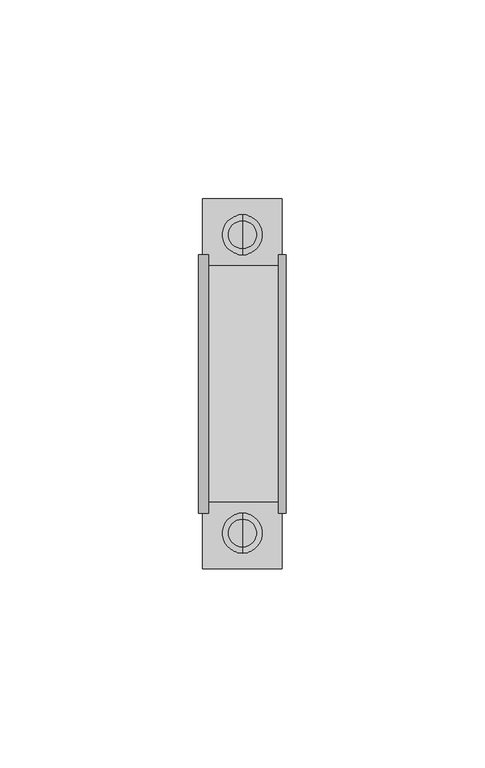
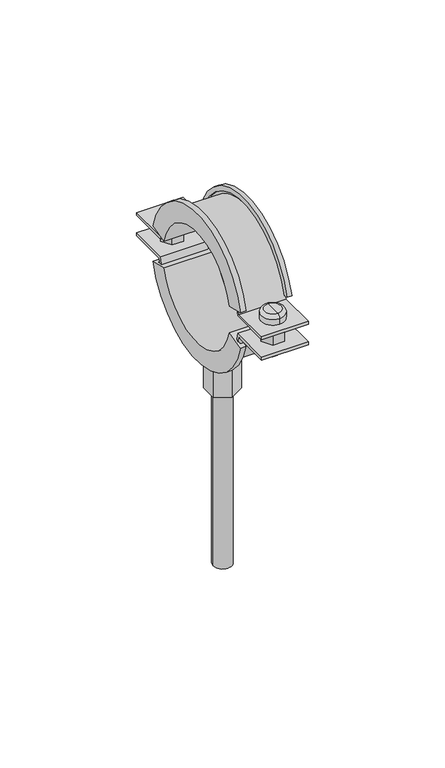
"""IFC4 building model written with IfcOpenShell, lengths in millimetres: pipe fitting geometry, NIRON abrazadera isofonica lisa : Estándard."""

from ifc_helpers import new_model, si_unit, point, frame, origin, origin_2d, place, context, project, spatial, polyline, circle_curve, ellipse_curve, trimmed, segment, composite_curve, outline, extrude, source, transform, mapped, element, save
from ifc_brep_helpers import plane_surface, cylinder_surface, revolved_surface, advanced_brep


def pipe_fitting_6546f404(model_context):
    return source(origin(), model_context, "Body", "SolidModel", [
        advanced_brep(
        [(0.0, 33.5, -7.8), (0.0, 33.5, -4.8), (0.0, 41.5, -4.8), (0.0, 41.5, -7.8), (0.0, 37.5, -7.8), (0.0, 37.5, -4.8)],
        [
            (0, 1),
            (1, 2, circle_curve(frame((0.0, 37.5, -4.8), z_axis=(0.0, 0.0, -1.0), x_axis=(0.0, 1.0, 0.0)), 4.0)),
            (2, 3),
            (3, 0, circle_curve(frame((0.0, 37.5, -7.8), z_axis=(0.0, 0.0, 1.0), x_axis=(0.0, 1.0, 0.0)), 4.0)),
            (2, 1, circle_curve(frame((0.0, 37.5, -4.8), z_axis=(0.0, 0.0, -1.0), x_axis=(0.0, 1.0, 0.0)), 4.0)),
            (0, 3, circle_curve(frame((0.0, 37.5, -7.8), z_axis=(0.0, 0.0, 1.0), x_axis=(0.0, 1.0, 0.0)), 4.0)),
            (4, 0),
            (3, 4),
            (1, 5),
            (5, 2),
        ],
        [
            cylinder_surface(frame((0.0, 37.5, -110.5332781), z_axis=(0.0, 0.0, -1.0), x_axis=(0.0, 1.0, 0.0)), 4.0),
            plane_surface(frame((0.0, 37.5, -7.8), z_axis=(0.0, 0.0, -1.0), x_axis=(0.0, 1.0, 0.0))),
            plane_surface(frame((0.0, 37.5, -4.8), z_axis=(0.0, 0.0, 1.0), x_axis=(0.0, 1.0, 0.0))),
        ],
        [
            (0, [[1, 2, 3, 4]]),
            (0, [[-3, 5, -1, 6]]),
            (1, [[7, -4, 8]]),
            (1, [[-8, -6, -7]]),
            (2, [[9, 10, -2]]),
            (2, [[-10, -9, -5]]),
        ],
    ),
        advanced_brep(
        [(0.0, 37.5, 4.8), (0.0, 32.5, 4.8), (0.0, 42.5, 4.8), (0.0, 32.5, 7.3), (0.0, 42.5, 7.3), (0.0, 34.0, 8.8), (0.0, 37.5, 8.8), (0.0, 41.0, 8.8)],
        [
            (0, 1),
            (1, 2, circle_curve(frame((0.0, 37.5, 4.8), z_axis=(0.0, 0.0, -1.0), x_axis=(0.0, 1.0, 0.0)), 5.0)),
            (2, 0),
            (2, 1, circle_curve(frame((0.0, 37.5, 4.8), z_axis=(0.0, 0.0, -1.0), x_axis=(0.0, 1.0, 0.0)), 5.0)),
            (1, 3),
            (3, 4, circle_curve(frame((0.0, 37.5, 7.3), z_axis=(0.0, 0.0, -1.0), x_axis=(0.0, 1.0, 0.0)), 5.0)),
            (4, 2),
            (4, 3, circle_curve(frame((0.0, 37.5, 7.3), z_axis=(0.0, 0.0, -1.0), x_axis=(0.0, 1.0, 0.0)), 5.0)),
            (5, 6),
            (6, 7),
            (7, 5, circle_curve(frame((0.0, 37.5, 8.8), z_axis=(0.0, 0.0, 1.0), x_axis=(0.0, 1.0, 0.0)), 3.5)),
            (5, 7, circle_curve(frame((0.0, 37.5, 8.8), z_axis=(0.0, 0.0, 1.0), x_axis=(0.0, 1.0, 0.0)), 3.5)),
            (3, 5, circle_curve(frame((0.0, 34.0, 7.3), z_axis=(-1.0, 0.0, 0.0), x_axis=(0.0, 1.0, 0.0)), 1.5)),
            (7, 4, circle_curve(frame((0.0, 41.0, 7.3), z_axis=(-1.0, 0.0, 0.0), x_axis=(0.0, -1.0, 0.0)), 1.5)),
        ],
        [
            plane_surface(frame((0.0, 37.5, 4.8), z_axis=(0.0, 0.0, -1.0), x_axis=(0.0, 1.0, 0.0))),
            cylinder_surface(frame((0.0, 37.5, 9.8), z_axis=(0.0, 0.0, -1.0), x_axis=(0.0, 1.0, 0.0)), 5.0),
            plane_surface(frame((0.0, 37.5, 8.8), z_axis=(0.0, 0.0, 1.0), x_axis=(0.0, 1.0, 0.0))),
            revolved_surface(trimmed(ellipse_curve(frame((0.0, 41.0, 7.3), z_axis=(-1.0, 0.0, 0.0), x_axis=(0.0, -1.0, 0.0)), 1.5, 1.5), [point((0.0, 41.0, 8.8))], [point((0.0, 42.5, 7.3))], True, "CARTESIAN"), (0.0, 37.5, 9.8), (0.0, 0.0, -1.0)),
        ],
        [
            (0, [[1, 2, 3]]),
            (0, [[-3, 4, -1]]),
            (1, [[5, 6, 7, -2]]),
            (1, [[-7, 8, -5, -4]]),
            (2, [[9, 10, 11]]),
            (2, [[-10, -9, 12]]),
            (3, [[13, -11, 14, -6]]),
            (3, [[-14, -12, -13, -8]]),
        ],
    ),
        advanced_brep(
        [(0.0, -33.5, -7.4875), (0.0, -41.5, -7.4875), (0.0, -41.5, -4.4875), (0.0, -33.5, -4.4875), (0.0, -37.5, -7.4875), (0.0, -37.5, -4.4875)],
        [
            (0, 1, circle_curve(frame((0.0, -37.5, -7.4875), z_axis=(0.0, 0.0, 1.0), x_axis=(0.0, -1.0, 0.0)), 4.0)),
            (1, 2),
            (2, 3, circle_curve(frame((0.0, -37.5, -4.4875), z_axis=(0.0, 0.0, -1.0), x_axis=(0.0, -1.0, 0.0)), 4.0)),
            (3, 0),
            (1, 0, circle_curve(frame((0.0, -37.5, -7.4875), z_axis=(0.0, 0.0, 1.0), x_axis=(0.0, -1.0, 0.0)), 4.0)),
            (3, 2, circle_curve(frame((0.0, -37.5, -4.4875), z_axis=(0.0, 0.0, -1.0), x_axis=(0.0, -1.0, 0.0)), 4.0)),
            (4, 1),
            (0, 4),
            (2, 5),
            (5, 3),
        ],
        [
            cylinder_surface(frame((0.0, -37.5, -110.2207781), z_axis=(0.0, 0.0, -1.0), x_axis=(0.0, -1.0, 0.0)), 4.0),
            plane_surface(frame((0.0, -37.5, -7.4875), z_axis=(0.0, 0.0, -1.0), x_axis=(0.0, -1.0, 0.0))),
            plane_surface(frame((0.0, -37.5, -4.4875), z_axis=(0.0, 0.0, 1.0), x_axis=(0.0, -1.0, 0.0))),
        ],
        [
            (0, [[1, 2, 3, 4]]),
            (0, [[5, -4, 6, -2]]),
            (1, [[7, -1, 8]]),
            (1, [[-8, -5, -7]]),
            (2, [[-3, 9, 10]]),
            (2, [[-6, -10, -9]]),
        ],
    ),
        advanced_brep(
        [(0.0, -37.5, 5.1125), (0.0, -42.5, 5.1125), (0.0, -32.5, 5.1125), (0.0, -42.5, 7.6125), (0.0, -32.5, 7.6125), (0.0, -34.0, 9.1125), (0.0, -41.0, 9.1125), (0.0, -37.5, 9.1125)],
        [
            (0, 1),
            (1, 2, circle_curve(frame((0.0, -37.5, 5.1125), z_axis=(0.0, 0.0, -1.0), x_axis=(0.0, -1.0, 0.0)), 5.0)),
            (2, 0),
            (2, 1, circle_curve(frame((0.0, -37.5, 5.1125), z_axis=(0.0, 0.0, -1.0), x_axis=(0.0, -1.0, 0.0)), 5.0)),
            (1, 3),
            (3, 4, circle_curve(frame((0.0, -37.5, 7.6125), z_axis=(0.0, 0.0, -1.0), x_axis=(0.0, -1.0, 0.0)), 5.0)),
            (4, 2),
            (4, 3, circle_curve(frame((0.0, -37.5, 7.6125), z_axis=(0.0, 0.0, -1.0), x_axis=(0.0, -1.0, 0.0)), 5.0)),
            (5, 6, circle_curve(frame((0.0, -37.5, 9.1125), z_axis=(0.0, 0.0, 1.0), x_axis=(0.0, -1.0, 0.0)), 3.5)),
            (6, 7),
            (7, 5),
            (6, 5, circle_curve(frame((0.0, -37.5, 9.1125), z_axis=(0.0, 0.0, 1.0), x_axis=(0.0, -1.0, 0.0)), 3.5)),
            (3, 6, circle_curve(frame((0.0, -41.0, 7.6125), z_axis=(-1.0, 0.0, 0.0), x_axis=(0.0, 1.0, 0.0)), 1.5)),
            (5, 4, circle_curve(frame((0.0, -34.0, 7.6125), z_axis=(-1.0, 0.0, 0.0), x_axis=(0.0, -1.0, 0.0)), 1.5)),
        ],
        [
            plane_surface(frame((0.0, -37.5, 5.1125), z_axis=(0.0, 0.0, -1.0), x_axis=(0.0, -1.0, 0.0))),
            cylinder_surface(frame((0.0, -37.5, 10.1125), z_axis=(0.0, 0.0, -1.0), x_axis=(0.0, -1.0, 0.0)), 5.0),
            plane_surface(frame((0.0, -37.5, 9.1125), z_axis=(0.0, 0.0, 1.0), x_axis=(0.0, -1.0, 0.0))),
            revolved_surface(trimmed(ellipse_curve(frame((0.0, -41.0, 7.6125), z_axis=(1.0, 0.0, 0.0), x_axis=(0.0, 1.0, 0.0)), 1.5, 1.5), [point((0.0, -41.0, 9.1125))], [point((0.0, -42.5, 7.6125))], True, "CARTESIAN"), (0.0, -37.5, 10.1125), (0.0, 0.0, -1.0)),
        ],
        [
            (0, [[1, 2, 3]]),
            (0, [[-3, 4, -1]]),
            (1, [[-2, 5, 6, 7]]),
            (1, [[-4, -7, 8, -5]]),
            (2, [[9, 10, 11]]),
            (2, [[12, -11, -10]]),
            (3, [[-6, 13, -9, 14]]),
            (3, [[-8, -14, -12, -13]]),
        ],
    ),
        extrude(outline(polyline([(2.5, 33.169873), (-2.5, 33.169873), (-5.0, 37.5), (-2.5, 41.830127), (2.5, 41.830127), (5.0, 37.5), (2.5, 33.169873)])), frame((0.0, 0.0, -4.0), z_axis=(0.0, 0.0, 1.0), x_axis=(1.0, 0.0, 0.0)), (0.0, 0.0, 1.0), 8.0),
        extrude(outline(polyline([(2.5, -33.169873), (5.0, -37.5), (2.5, -41.830127), (-2.5, -41.830127), (-5.0, -37.5), (-2.5, -33.169873), (2.5, -33.169873)])), frame((0.0, 0.0, -4.0), z_axis=(0.0, 0.0, 1.0), x_axis=(1.0, 0.0, 0.0)), (0.0, 0.0, 1.0), 8.0),
        advanced_brep(
        [(11.0, -24.2808852, 6.0), (11.0, -32.4878244, 8.0121254), (9.0, -32.4878244, 8.0121254), (9.0, -30.5453536, 7.5358827), (10.0, -30.5453536, 7.5358827), (10.0, -28.6028828, 7.05964), (-10.0, -28.6028828, 7.05964), (-10.0, -30.5453536, 7.5358827), (-8.5466338, -30.5453536, 7.5358827), (-8.5466338, -32.4878244, 8.0121254), (-11.0, -32.4878244, 8.0121254), (-11.0, -24.2808852, 6.0), (11.0, 24.2808852, 6.0), (-11.0, 24.2808852, 6.0), (-11.0, 32.4878244, 8.0121254), (-8.5466338, 32.4878244, 8.0121254), (-8.5466338, 30.5453536, 7.5358827), (-10.0, 30.5453536, 7.5358827), (-10.0, 28.6028828, 7.05964), (10.0, 28.6028828, 7.05964), (10.0, 30.5453536, 7.5358827), (9.0, 30.5453536, 7.5358827), (9.0, 32.4878244, 8.0121254), (11.0, 32.4878244, 8.0121254)],
        [
            (0, 1),
            (1, 2),
            (2, 3),
            (3, 4),
            (4, 5),
            (5, 6),
            (6, 7),
            (7, 8),
            (8, 9),
            (9, 10),
            (10, 11),
            (11, 0),
            (12, 13),
            (13, 14),
            (14, 15),
            (15, 16),
            (16, 17),
            (17, 18),
            (18, 19),
            (19, 20),
            (20, 21),
            (21, 22),
            (22, 23),
            (23, 12),
            (12, 0, circle_curve(frame((11.0, 0.0, 0.0469661), z_axis=(1.0, 0.0, 0.0), x_axis=(0.0, -0.9712354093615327, 0.23812135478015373)), 25.0)),
            (11, 13, circle_curve(frame((-11.0, 0.0, 0.0469661), z_axis=(-1.0, 0.0, 0.0), x_axis=(0.0, -0.9712354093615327, 0.23812135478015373)), 25.0)),
            (10, 14, circle_curve(frame((-11.0, 0.0, 0.0469661), z_axis=(-1.0, 0.0, 0.0), x_axis=(0.0, -0.9712354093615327, 0.23812135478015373)), 33.45)),
            (9, 15, circle_curve(frame((-8.5466338, 0.0, 0.0469661), z_axis=(-1.0, 0.0, 0.0), x_axis=(0.0, -0.9712354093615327, 0.23812135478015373)), 33.45)),
            (8, 16, circle_curve(frame((-8.5466338, 0.0, 0.0469661), z_axis=(-1.0, 0.0, 0.0), x_axis=(0.0, -0.9712354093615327, 0.23812135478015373)), 31.45)),
            (7, 17, circle_curve(frame((-10.0, 0.0, 0.0469661), z_axis=(-1.0, 0.0, 0.0), x_axis=(0.0, -0.9712354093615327, 0.23812135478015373)), 31.45)),
            (6, 18, circle_curve(frame((-10.0, 0.0, 0.0469661), z_axis=(-1.0, 0.0, 0.0), x_axis=(0.0, -0.9712354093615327, 0.23812135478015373)), 29.45)),
            (5, 19, circle_curve(frame((10.0, 0.0, 0.0469661), z_axis=(-1.0, 0.0, 0.0), x_axis=(0.0, -0.9712354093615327, 0.23812135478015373)), 29.45)),
            (4, 20, circle_curve(frame((10.0, 0.0, 0.0469661), z_axis=(-1.0, 0.0, 0.0), x_axis=(0.0, -0.9712354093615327, 0.23812135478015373)), 31.45)),
            (3, 21, circle_curve(frame((9.0, 0.0, 0.0469661), z_axis=(-1.0, 0.0, 0.0), x_axis=(0.0, -0.9712354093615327, 0.23812135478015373)), 31.45)),
            (2, 22, circle_curve(frame((9.0, 0.0, 0.0469661), z_axis=(-1.0, 0.0, 0.0), x_axis=(0.0, -0.9712354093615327, 0.23812135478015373)), 33.45)),
            (1, 23, circle_curve(frame((11.0, 0.0, 0.0469661), z_axis=(-1.0, 0.0, 0.0), x_axis=(0.0, -0.9712354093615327, 0.23812135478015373)), 33.45)),
        ],
        [
            plane_surface(frame((0.0, -24.2808852, 6.0), z_axis=(0.0, -0.23812135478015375, -0.9712354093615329), x_axis=(1.0, 0.0, 0.0))),
            plane_surface(frame((0.0, 24.2808852, 6.0), z_axis=(0.0, 0.23812135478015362, -0.9712354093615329), x_axis=(1.0, 0.0, 0.0))),
            revolved_surface(polyline([(-11.0, -24.28088523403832, 5.999999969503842), (11.0, -24.28088523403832, 5.999999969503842)]), (0.0, 0.0, 0.0469661), (-1.0, 0.0, 0.0)),
            plane_surface(frame((-11.0, 0.0, 0.0469661), z_axis=(-1.0000000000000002, 0.0, 0.0), x_axis=(0.0, -0.9712354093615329, 0.23812135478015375))),
            cylinder_surface(frame((0.0, 0.0, 0.0469661), z_axis=(-1.0, 0.0, 0.0), x_axis=(0.0, -0.9712354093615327, 0.23812135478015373)), 33.45),
            plane_surface(frame((-8.5466338, 0.0, 0.0469661), z_axis=(1.0000000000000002, 0.0, 0.0), x_axis=(0.0, -0.9712354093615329, 0.23812135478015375))),
            revolved_surface(polyline([(-10.0, -30.545353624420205, 7.535882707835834), (-8.5466338, -30.545353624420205, 7.535882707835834)]), (0.0, 0.0, 0.0469661), (-1.0, 0.0, 0.0)),
            plane_surface(frame((-10.0, 0.0, 0.0469661), z_axis=(1.0000000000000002, 0.0, 0.0), x_axis=(0.0, -0.9712354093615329, 0.23812135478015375))),
            cylinder_surface(frame((0.0, 0.0, 0.0469661), z_axis=(-1.0, 0.0, 0.0), x_axis=(0.0, -0.9712354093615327, 0.23812135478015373)), 29.45),
            plane_surface(frame((10.0, 0.0, 0.0469661), z_axis=(-1.0000000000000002, 0.0, 0.0), x_axis=(0.0, -0.9712354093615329, 0.23812135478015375))),
            revolved_surface(polyline([(9.0, -30.545353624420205, 7.535882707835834), (10.0, -30.545353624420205, 7.535882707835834)]), (0.0, 0.0, 0.0469661), (-1.0, 0.0, 0.0)),
            plane_surface(frame((9.0, 0.0, 0.0469661), z_axis=(-1.0000000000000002, 0.0, 0.0), x_axis=(0.0, -0.9712354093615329, 0.23812135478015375))),
            plane_surface(frame((11.0, 0.0, 0.0469661), z_axis=(1.0000000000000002, 0.0, 0.0), x_axis=(0.0, -0.9712354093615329, 0.23812135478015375))),
        ],
        [
            (0, [[1, 2, 3, 4, 5, 6, 7, 8, 9, 10, 11, 12]]),
            (1, [[13, 14, 15, 16, 17, 18, 19, 20, 21, 22, 23, 24]]),
            (2, [[25, -12, 26, -13]]),
            (3, [[-26, -11, 27, -14]]),
            (4, [[-27, -10, 28, -15]]),
            (5, [[-28, -9, 29, -16]]),
            (6, [[-29, -8, 30, -17]]),
            (7, [[-30, -7, 31, -18]]),
            (8, [[-31, -6, 32, -19]]),
            (9, [[-32, -5, 33, -20]]),
            (10, [[-33, -4, 34, -21]]),
            (11, [[-34, -3, 35, -22]]),
            (4, [[-35, -2, 36, -23]]),
            (12, [[-36, -1, -25, -24]]),
        ],
    ),
        extrude(outline(composite_curve([segment(trimmed(circle_curve(origin_2d(), 29.0), [point((-28.7228132, -4.0))], [point((28.7228132, -4.0))], True, "CARTESIAN"), True, "CONTINUOUS"), segment(polyline([(28.7228132, -4.0), (46.5, -4.0), (46.5, -5.25), (29.7909382, -5.25)]), True, "CONTINUOUS"), segment(trimmed(circle_curve(origin_2d(), 30.25), [point((29.7909382, -5.25))], [point((-29.7909382, -5.25))], False, "CARTESIAN"), True, "CONTINUOUS"), segment(polyline([(-29.7909382, -5.25), (-46.5, -5.25), (-46.5, -4.0), (-28.7228132, -4.0)]), True, "CONTINUOUS")], self_intersect=False)), frame((-10.0, 0.0, 0.0), z_axis=(1.0, 0.0, 0.0), x_axis=(0.0, 1.0, 0.0)), (0.0, 0.0, 1.0), 20.0),
        advanced_brep(
        [(11.0, -24.2693222, -6.0), (-11.0, -24.2693222, -6.0), (-11.0, -32.4723531, -8.028), (-8.5466338, -32.4723531, -8.028), (-8.5466338, -30.5308073, -7.548), (-10.0, -30.5308073, -7.548), (-10.0, -28.5892616, -7.068), (10.0, -28.5892616, -7.068), (10.0, -30.5308073, -7.548), (9.0, -30.5308073, -7.548), (9.0, -32.4723531, -8.028), (11.0, -32.4723531, -8.028), (11.0, 24.2693222, -6.0), (11.0, 32.4723531, -8.028), (9.0, 32.4723531, -8.028), (9.0, 30.5308073, -7.548), (10.0, 30.5308073, -7.548), (10.0, 28.5892616, -7.068), (-10.0, 28.5892616, -7.068), (-10.0, 30.5308073, -7.548), (-8.5466338, 30.5308073, -7.548), (-8.5466338, 32.4723531, -8.028), (-11.0, 32.4723531, -8.028), (-11.0, 24.2693222, -6.0)],
        [
            (0, 1),
            (1, 2),
            (2, 3),
            (3, 4),
            (4, 5),
            (5, 6),
            (6, 7),
            (7, 8),
            (8, 9),
            (9, 10),
            (10, 11),
            (11, 0),
            (12, 13),
            (13, 14),
            (14, 15),
            (15, 16),
            (16, 17),
            (17, 18),
            (18, 19),
            (19, 20),
            (20, 21),
            (21, 22),
            (22, 23),
            (23, 12),
            (23, 1, circle_curve(frame((-11.0, 0.0, 0.0), z_axis=(-1.0, 0.0, 0.0), x_axis=(0.0, -0.9707728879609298, -0.23999999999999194)), 25.0)),
            (0, 12, circle_curve(frame((11.0, 0.0, 0.0), z_axis=(1.0, 0.0, 0.0), x_axis=(0.0, -0.9707728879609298, -0.23999999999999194)), 25.0)),
            (22, 2, circle_curve(frame((-11.0, 0.0, 0.0), z_axis=(-1.0, 0.0, 0.0), x_axis=(0.0, -0.9707728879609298, -0.23999999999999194)), 33.45)),
            (21, 3, circle_curve(frame((-8.5466338, 0.0, 0.0), z_axis=(-1.0, 0.0, 0.0), x_axis=(0.0, -0.9707728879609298, -0.23999999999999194)), 33.45)),
            (20, 4, circle_curve(frame((-8.5466338, 0.0, 0.0), z_axis=(-1.0, 0.0, 0.0), x_axis=(0.0, -0.9707728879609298, -0.23999999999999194)), 31.45)),
            (19, 5, circle_curve(frame((-10.0, 0.0, 0.0), z_axis=(-1.0, 0.0, 0.0), x_axis=(0.0, -0.9707728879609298, -0.23999999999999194)), 31.45)),
            (18, 6, circle_curve(frame((-10.0, 0.0, 0.0), z_axis=(-1.0, 0.0, 0.0), x_axis=(0.0, -0.9707728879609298, -0.23999999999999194)), 29.45)),
            (17, 7, circle_curve(frame((10.0, 0.0, 0.0), z_axis=(-1.0, 0.0, 0.0), x_axis=(0.0, -0.9707728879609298, -0.23999999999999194)), 29.45)),
            (16, 8, circle_curve(frame((10.0, 0.0, 0.0), z_axis=(-1.0, 0.0, 0.0), x_axis=(0.0, -0.9707728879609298, -0.23999999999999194)), 31.45)),
            (15, 9, circle_curve(frame((9.0, 0.0, 0.0), z_axis=(-1.0, 0.0, 0.0), x_axis=(0.0, -0.9707728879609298, -0.23999999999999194)), 31.45)),
            (14, 10, circle_curve(frame((9.0, 0.0, 0.0), z_axis=(-1.0, 0.0, 0.0), x_axis=(0.0, -0.9707728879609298, -0.23999999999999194)), 33.45)),
            (13, 11, circle_curve(frame((11.0, 0.0, 0.0), z_axis=(-1.0, 0.0, 0.0), x_axis=(0.0, -0.9707728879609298, -0.23999999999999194)), 33.45)),
        ],
        [
            plane_surface(frame((0.0, -24.2693222, -6.0), z_axis=(0.0, -0.23999999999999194, 0.9707728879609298), x_axis=(1.0, 0.0, 0.0))),
            plane_surface(frame((0.0, 24.2693222, -6.0), z_axis=(0.0, 0.2399999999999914, 0.9707728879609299), x_axis=(1.0, 0.0, 0.0))),
            revolved_surface(polyline([(11.0, -24.269322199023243, -5.999999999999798), (-11.0, -24.269322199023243, -5.999999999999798)]), (0.0, 0.0, 0.0), (1.0, 0.0, 0.0)),
            plane_surface(frame((-11.0, 0.0, 0.0), z_axis=(-1.0, 0.0, 0.0), x_axis=(0.0, -0.9707728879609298, -0.23999999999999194))),
            cylinder_surface(frame((0.0, 0.0, 0.0), z_axis=(1.0, 0.0, 0.0), x_axis=(0.0, -0.9707728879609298, -0.23999999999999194)), 33.45),
            plane_surface(frame((-8.5466338, 0.0, 0.0), z_axis=(1.0, 0.0, 0.0), x_axis=(0.0, -0.9707728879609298, -0.23999999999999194))),
            revolved_surface(polyline([(-8.5466338, -30.53080732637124, -7.547999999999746), (-10.0, -30.53080732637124, -7.547999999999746)]), (0.0, 0.0, 0.0), (1.0, 0.0, 0.0)),
            plane_surface(frame((-10.0, 0.0, 0.0), z_axis=(1.0, 0.0, 0.0), x_axis=(0.0, -0.9707728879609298, -0.23999999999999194))),
            cylinder_surface(frame((0.0, 0.0, 0.0), z_axis=(1.0, 0.0, 0.0), x_axis=(0.0, -0.9707728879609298, -0.23999999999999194)), 29.45),
            plane_surface(frame((10.0, 0.0, 0.0), z_axis=(-1.0, 0.0, 0.0), x_axis=(0.0, -0.9707728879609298, -0.23999999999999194))),
            revolved_surface(polyline([(10.0, -30.53080732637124, -7.547999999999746), (9.0, -30.53080732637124, -7.547999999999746)]), (0.0, 0.0, 0.0), (1.0, 0.0, 0.0)),
            plane_surface(frame((9.0, 0.0, 0.0), z_axis=(-1.0, 0.0, 0.0), x_axis=(0.0, -0.9707728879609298, -0.23999999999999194))),
            plane_surface(frame((11.0, 0.0, 0.0), z_axis=(1.0, 0.0, 0.0), x_axis=(0.0, -0.9707728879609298, -0.23999999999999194))),
        ],
        [
            (0, [[1, 2, 3, 4, 5, 6, 7, 8, 9, 10, 11, 12]]),
            (1, [[13, 14, 15, 16, 17, 18, 19, 20, 21, 22, 23, 24]]),
            (2, [[25, -1, 26, -24]]),
            (3, [[27, -2, -25, -23]]),
            (4, [[28, -3, -27, -22]]),
            (5, [[29, -4, -28, -21]]),
            (6, [[30, -5, -29, -20]]),
            (7, [[31, -6, -30, -19]]),
            (8, [[32, -7, -31, -18]]),
            (9, [[33, -8, -32, -17]]),
            (10, [[34, -9, -33, -16]]),
            (11, [[35, -10, -34, -15]]),
            (4, [[36, -11, -35, -14]]),
            (12, [[-26, -12, -36, -13]]),
        ],
    ),
        extrude(outline(composite_curve([segment(trimmed(circle_curve(origin_2d(), 30.25), [point((-29.7909382, 5.25))], [point((29.7909382, 5.25))], False, "CARTESIAN"), True, "CONTINUOUS"), segment(polyline([(29.7909382, 5.25), (46.5, 5.25), (46.5, 4.0), (28.7228132, 4.0)]), True, "CONTINUOUS"), segment(trimmed(circle_curve(origin_2d(), 29.0), [point((28.7228132, 4.0))], [point((-28.7228132, 4.0))], True, "CARTESIAN"), True, "CONTINUOUS"), segment(polyline([(-28.7228132, 4.0), (-46.5, 4.0), (-46.5, 5.25), (-29.7909382, 5.25)]), True, "CONTINUOUS")], self_intersect=False)), frame((-10.0, 0.0, 0.0), z_axis=(1.0, 0.0, 0.0), x_axis=(0.0, 1.0, 0.0)), (0.0, 0.0, 1.0), 20.0),
        extrude(outline(composite_curve([segment(trimmed(circle_curve(origin_2d(), 4.0), [point((-4.0, 0.0))], [point((4.0, 0.0))], False, "CARTESIAN"), True, "CONTINUOUS"), segment(trimmed(circle_curve(origin_2d(), 4.0), [point((4.0, 0.0))], [point((-4.0, 0.0))], False, "CARTESIAN"), True, "CONTINUOUS")], self_intersect=False)), frame((0.0, 0.0, -129.0), z_axis=(0.0, 0.0, 1.0), x_axis=(1.0, 0.0, 0.0)), (0.0, 0.0, 1.0), 100.0),
        extrude(outline(polyline([(-6.0621778, 3.5), (0.0, 7.0), (6.0621778, 3.5), (6.0621778, -3.5), (0.0, -7.0), (-6.0621778, -3.5), (-6.0621778, 3.5)])), frame((0.0, 0.0, -49.5), z_axis=(0.0, 0.0, 1.0), x_axis=(1.0, 0.0, 0.0)), (0.0, 0.0, 1.0), 20.5),
    ])


if __name__ == "__main__":
    model = new_model("IFC4")
    model_context = context("Model", 3, world=origin())
    ifc_project = project(units=[si_unit("LENGTHUNIT", "METRE", prefix="MILLI")], contexts=[model_context])
    site = spatial("IfcSite", under=ifc_project)
    building = spatial("IfcBuilding", under=site)
    placement = place(None, origin())
    pipe_fitting_shape = pipe_fitting_6546f404(model_context)
    element("IfcPipeFitting", 1, ObjectType="NIRON abrazadera isofonica lisa : Estándard", at=placement, inside=building, context=model_context, shape_type="MappedRepresentation", body=[
        mapped(pipe_fitting_shape, transform((0.0, 0.0, 0.0), x_axis=(1.0, 0.0, 0.0), y_axis=(0.0, 1.0, 0.0), z_axis=(0.0, 0.0, 1.0))),
    ])
    save(model, "model.ifc")
